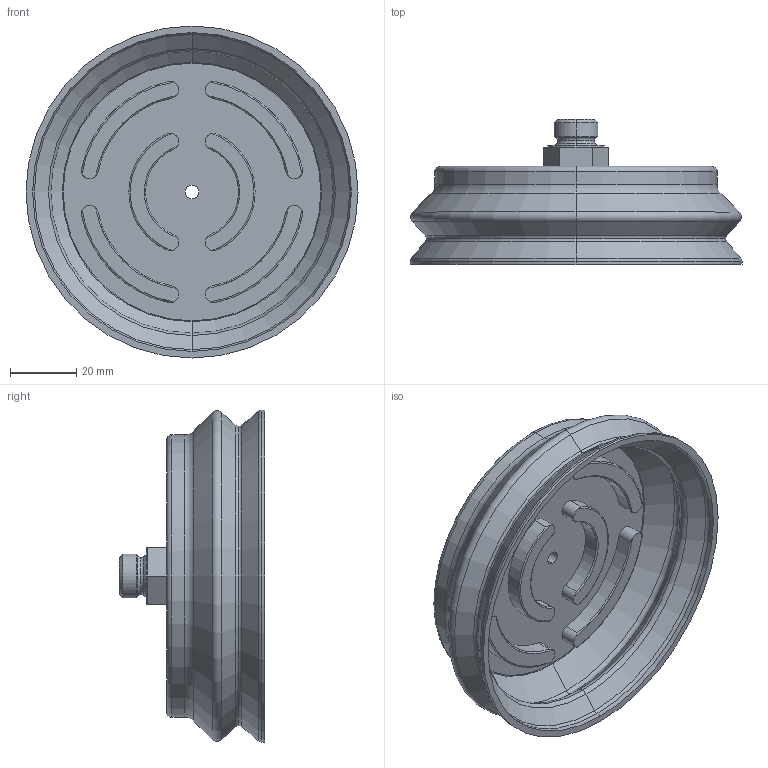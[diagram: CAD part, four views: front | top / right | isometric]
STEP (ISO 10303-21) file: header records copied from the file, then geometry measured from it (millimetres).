
FILE_DESCRIPTION (( 'STEP AP203' ), '1' );
FILE_NAME ('ZASB-100-1_4-SI.STEP', '2022-03-14T18:02:55', ( '' ), ( '' ), 'SwSTEP 2.0', 'SolidWorks 2019', '' );
FILE_SCHEMA (( 'CONFIG_CONTROL_DESIGN' ));
Length unit declared in the file: millimetre
Products named in the file (1): ZASB-100-1_4-SI
Bounding box: 100 x 43.7 x 100 mm (x, y, z)
Volume: 78512.1 mm3; surface area: 32550.3 mm2
Topology: 1 solids, 1 shells, 121 faces, 276 edges, 166 vertices
Faces by surface type: cylinder 42, torus 38, plane 23, cone 18
Entity records: 3637 total; most frequent: CARTESIAN_POINT 754, DIRECTION 656, ORIENTED_EDGE 552, AXIS2_PLACEMENT_3D 286, EDGE_CURVE 276, VERTEX_POINT 166, CIRCLE 164, EDGE_LOOP 132
